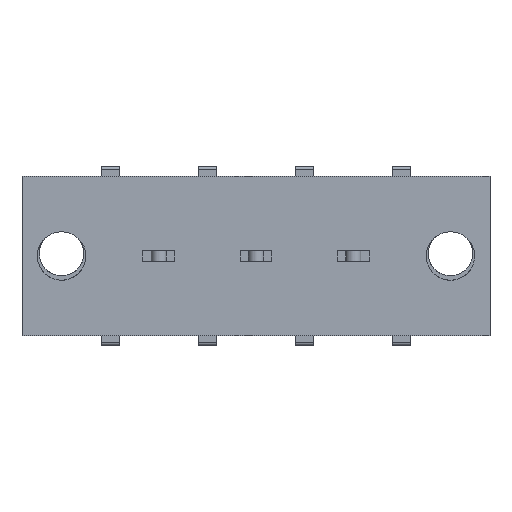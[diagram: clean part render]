
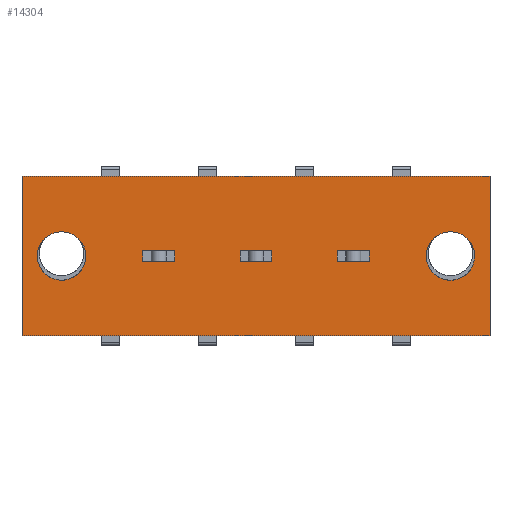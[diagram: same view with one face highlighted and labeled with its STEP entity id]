
A CAD part, front view. The second image highlights one B-rep face of the part: STEP entity #14304.
In plain terms, the highlighted planar face has unit normal (0, -1, 0).
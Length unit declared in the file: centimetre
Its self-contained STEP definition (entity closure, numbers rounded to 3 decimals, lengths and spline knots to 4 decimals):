
#753=PLANE('',#23313);
#1506=VECTOR('',#15444,1.);
#1705=VECTOR('',#15869,1.);
#1716=VECTOR('',#15889,1.);
#1730=VECTOR('',#15922,1.);
#1732=VECTOR('',#15925,1.);
#1781=VECTOR('',#16020,1.);
#1790=VECTOR('',#16032,1.);
#1791=VECTOR('',#16033,1.);
#1792=VECTOR('',#16034,1.);
#1793=VECTOR('',#16035,1.);
#1794=VECTOR('',#16036,1.);
#1795=VECTOR('',#16037,1.);
#1796=VECTOR('',#16038,1.);
#1797=VECTOR('',#16039,1.);
#1798=VECTOR('',#16040,1.);
#1799=VECTOR('',#16041,1.);
#3110=LINE('',#19187,#1506);
#3309=LINE('',#19811,#1705);
#3320=LINE('',#19838,#1716);
#3334=LINE('',#19874,#1730);
#3336=LINE('',#19878,#1732);
#3385=LINE('',#19999,#1781);
#3394=LINE('',#20018,#1790);
#3395=LINE('',#20021,#1791);
#3396=LINE('',#20023,#1792);
#3397=LINE('',#20025,#1793);
#3398=LINE('',#20026,#1794);
#3399=LINE('',#20029,#1795);
#3400=LINE('',#20031,#1796);
#3401=LINE('',#20033,#1797);
#3402=LINE('',#20034,#1798);
#3403=LINE('',#20036,#1799);
#4647=VERTEX_POINT('',#19186);
#4648=VERTEX_POINT('',#19188);
#4649=VERTEX_POINT('',#19192);
#4847=VERTEX_POINT('',#19812);
#4848=VERTEX_POINT('',#19813);
#4857=VERTEX_POINT('',#19839);
#4866=VERTEX_POINT('',#19875);
#4909=VERTEX_POINT('',#20000);
#4916=VERTEX_POINT('',#20017);
#4917=VERTEX_POINT('',#20019);
#4918=VERTEX_POINT('',#20020);
#4919=VERTEX_POINT('',#20022);
#4920=VERTEX_POINT('',#20024);
#4921=VERTEX_POINT('',#20027);
#4922=VERTEX_POINT('',#20028);
#4923=VERTEX_POINT('',#20030);
#4924=VERTEX_POINT('',#20032);
#4925=VERTEX_POINT('',#20035);
#5694=CIRCLE('',#23114,0.19);
#5764=CIRCLE('',#23314,0.19);
#6428=EDGE_CURVE('',#4648,#4647,#3110,.T.);
#6430=EDGE_CURVE('',#4649,#4649,#5694,.T.);
#6715=EDGE_CURVE('',#4847,#4848,#3309,.T.);
#6730=EDGE_CURVE('',#4857,#4847,#3320,.T.);
#6748=EDGE_CURVE('',#4866,#4857,#3334,.T.);
#6750=EDGE_CURVE('',#4848,#4866,#3336,.T.);
#6810=EDGE_CURVE('',#4909,#4647,#3385,.T.);
#6819=EDGE_CURVE('',#4916,#4916,#5764,.T.);
#6820=EDGE_CURVE('',#4917,#4918,#3394,.T.);
#6821=EDGE_CURVE('',#4918,#4919,#3395,.T.);
#6822=EDGE_CURVE('',#4919,#4920,#3396,.T.);
#6823=EDGE_CURVE('',#4920,#4917,#3397,.T.);
#6824=EDGE_CURVE('',#4921,#4922,#3398,.T.);
#6825=EDGE_CURVE('',#4922,#4923,#3399,.T.);
#6826=EDGE_CURVE('',#4923,#4924,#3400,.T.);
#6827=EDGE_CURVE('',#4924,#4921,#3401,.T.);
#6828=EDGE_CURVE('',#4925,#4648,#3402,.T.);
#6829=EDGE_CURVE('',#4925,#4909,#3403,.T.);
#9795=ORIENTED_EDGE('',*,*,#6430,.T.);
#9796=ORIENTED_EDGE('',*,*,#6819,.T.);
#9797=ORIENTED_EDGE('',*,*,#6730,.F.);
#9798=ORIENTED_EDGE('',*,*,#6748,.F.);
#9799=ORIENTED_EDGE('',*,*,#6750,.F.);
#9800=ORIENTED_EDGE('',*,*,#6715,.F.);
#9801=ORIENTED_EDGE('',*,*,#6820,.T.);
#9802=ORIENTED_EDGE('',*,*,#6821,.T.);
#9803=ORIENTED_EDGE('',*,*,#6822,.T.);
#9804=ORIENTED_EDGE('',*,*,#6823,.T.);
#9805=ORIENTED_EDGE('',*,*,#6824,.T.);
#9806=ORIENTED_EDGE('',*,*,#6825,.T.);
#9807=ORIENTED_EDGE('',*,*,#6826,.T.);
#9808=ORIENTED_EDGE('',*,*,#6827,.T.);
#9809=ORIENTED_EDGE('',*,*,#6828,.T.);
#9810=ORIENTED_EDGE('',*,*,#6428,.T.);
#9811=ORIENTED_EDGE('',*,*,#6810,.F.);
#9812=ORIENTED_EDGE('',*,*,#6829,.F.);
#12613=EDGE_LOOP('',(#9795));
#12614=EDGE_LOOP('',(#9796));
#12615=EDGE_LOOP('',(#9797,#9798,#9799,#9800));
#12616=EDGE_LOOP('',(#9801,#9802,#9803,#9804));
#12617=EDGE_LOOP('',(#9805,#9806,#9807,#9808));
#12618=EDGE_LOOP('',(#9809,#9810,#9811,#9812));
#13475=FACE_BOUND('',#12613,.T.);
#13476=FACE_BOUND('',#12614,.T.);
#13477=FACE_BOUND('',#12615,.T.);
#13478=FACE_BOUND('',#12616,.T.);
#13479=FACE_BOUND('',#12617,.T.);
#13480=FACE_BOUND('',#12618,.T.);
#14304=ADVANCED_FACE('',(#13475,#13476,#13477,#13478,#13479,#13480),#753,
 .T.);
#15444=DIRECTION('',(0.,0.,1.));
#15448=DIRECTION('',(0.,1.,0.));
#15449=DIRECTION('',(0.19,0.,0.));
#15869=DIRECTION('',(0.,0.,1.));
#15889=DIRECTION('',(1.,0.,0.));
#15922=DIRECTION('',(0.,0.,-1.));
#15925=DIRECTION('',(-1.,0.,0.));
#16020=DIRECTION('',(1.,0.,0.));
#16029=DIRECTION('',(0.,-1.,0.));
#16030=DIRECTION('',(0.,1.,0.));
#16031=DIRECTION('',(0.19,0.,0.));
#16032=DIRECTION('',(-1.,0.,0.));
#16033=DIRECTION('',(0.,0.,1.));
#16034=DIRECTION('',(1.,0.,0.));
#16035=DIRECTION('',(0.,0.,-1.));
#16036=DIRECTION('',(-1.,0.,0.));
#16037=DIRECTION('',(0.,0.,1.));
#16038=DIRECTION('',(1.,0.,0.));
#16039=DIRECTION('',(0.,0.,-1.));
#16040=DIRECTION('',(1.,0.,0.));
#16041=DIRECTION('',(0.,0.,1.));
#19186=CARTESIAN_POINT('',(2.286,0.,0.625));
#19187=CARTESIAN_POINT('',(2.286,0.,-0.625));
#19188=CARTESIAN_POINT('',(2.286,0.,-0.625));
#19191=CARTESIAN_POINT('',(1.976,0.,0.));
#19192=CARTESIAN_POINT('',(1.786,0.,0.));
#19811=CARTESIAN_POINT('',(-0.185,0.,0.));
#19812=CARTESIAN_POINT('',(-0.185,0.,-0.04));
#19813=CARTESIAN_POINT('',(-0.185,0.,0.04));
#19838=CARTESIAN_POINT('',(-0.465,0.,-0.04));
#19839=CARTESIAN_POINT('',(-0.435,0.,-0.04));
#19874=CARTESIAN_POINT('',(-0.435,0.,0.));
#19875=CARTESIAN_POINT('',(-0.435,0.,0.04));
#19878=CARTESIAN_POINT('',(-0.465,0.,0.04));
#19999=CARTESIAN_POINT('',(-1.382,0.,0.625));
#20000=CARTESIAN_POINT('',(-1.382,0.,0.625));
#20015=CARTESIAN_POINT('',(0.,0.,0.));
#20016=CARTESIAN_POINT('',(-1.072,0.,0.));
#20017=CARTESIAN_POINT('',(-1.262,0.,0.));
#20018=CARTESIAN_POINT('',(0.607,0.,-0.04));
#20019=CARTESIAN_POINT('',(1.339,0.,-0.04));
#20020=CARTESIAN_POINT('',(1.089,0.,-0.04));
#20021=CARTESIAN_POINT('',(1.089,0.,0.));
#20022=CARTESIAN_POINT('',(1.089,0.,0.04));
#20023=CARTESIAN_POINT('',(0.607,0.,0.04));
#20024=CARTESIAN_POINT('',(1.339,0.,0.04));
#20025=CARTESIAN_POINT('',(1.339,0.,0.));
#20026=CARTESIAN_POINT('',(0.226,0.,-0.04));
#20027=CARTESIAN_POINT('',(0.577,0.,-0.04));
#20028=CARTESIAN_POINT('',(0.327,0.,-0.04));
#20029=CARTESIAN_POINT('',(0.327,0.,0.));
#20030=CARTESIAN_POINT('',(0.327,0.,0.04));
#20031=CARTESIAN_POINT('',(0.226,0.,0.04));
#20032=CARTESIAN_POINT('',(0.577,0.,0.04));
#20033=CARTESIAN_POINT('',(0.577,0.,0.));
#20034=CARTESIAN_POINT('',(-1.382,0.,-0.625));
#20035=CARTESIAN_POINT('',(-1.382,0.,-0.625));
#20036=CARTESIAN_POINT('',(-1.382,0.,-0.625));
#23114=AXIS2_PLACEMENT_3D('',#19191,#15448,#15449);
#23313=AXIS2_PLACEMENT_3D('',#20015,#16029,$);
#23314=AXIS2_PLACEMENT_3D('',#20016,#16030,#16031);
